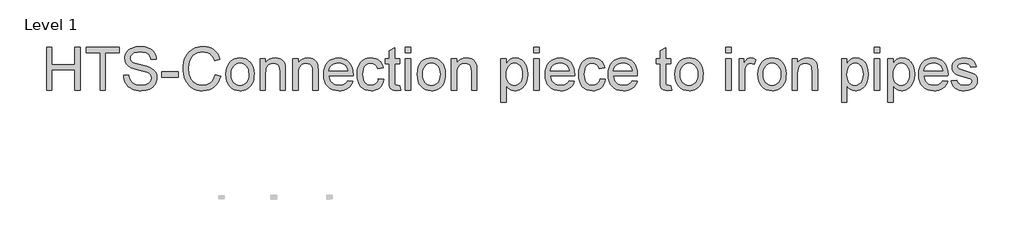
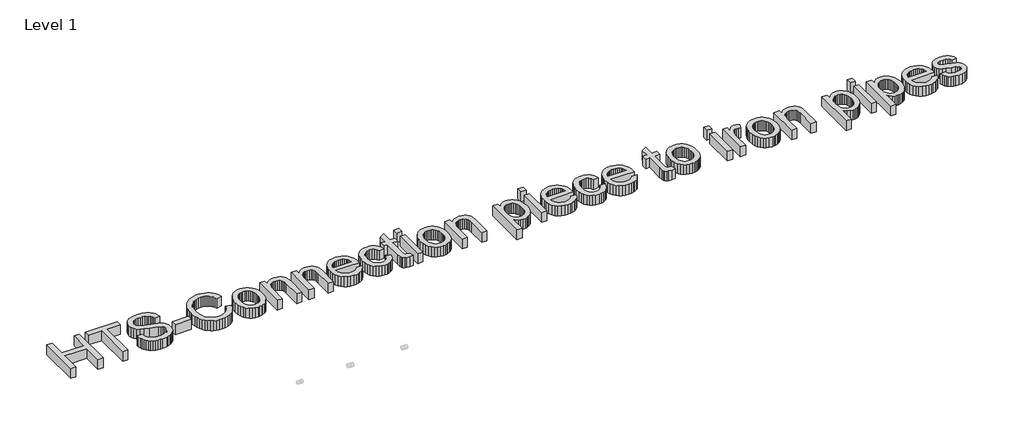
# One storey, part 20 of 29: 1 proxy.
"""IFC4 building model written with IfcOpenShell, lengths in millimetres."""

import ifcopenshell
import ifcopenshell.guid

model = None  # the IFC model being written
_history = None  # IfcOwnerHistory: only IFC2X3 demands one
_inside = {}  # id of a spatial element -> (the spatial element, [elements in it])
_under = {}  # id of a project, library or spatial element -> (it, [spatial elements below it])
_declared = {}  # id of a project -> (the project, [libraries it declares])
_typed = {}  # id of a type object -> (the type object, [elements of that type])
_made_of = {}  # id of a material, layer set ... -> (it, [elements and type objects made of it])


def new_model(schema):
    """Start an empty IFC model of exactly this schema.

    Asked for "IFC4X3", IfcOpenShell would pick the latest addendum, in which some entities
    have other attributes; the version numbers below select the first issue.
    IFC2X3 requires an IfcOwnerHistory on every rooted entity: one is made here for all.
    """
    global model, _history
    if schema == "IFC4X3":
        model = ifcopenshell.file(schema_version=(4, 3, 0, 0))
    else:
        model = ifcopenshell.file(schema=schema)
    _inside.clear()
    _under.clear()
    _declared.clear()
    _typed.clear()
    _made_of.clear()
    _history = None
    if model.schema == "IFC2X3":
        org = make("IfcOrganization", Name="unknown")
        user = make(
            "IfcPersonAndOrganization",
            ThePerson=make("IfcPerson", FamilyName="unknown"),
            TheOrganization=org,
        )
        app = make(
            "IfcApplication",
            ApplicationDeveloper=org,
            Version="unknown",
            ApplicationFullName="unknown",
            ApplicationIdentifier="unknown",
        )
        _history = make(
            "IfcOwnerHistory",
            OwningUser=user,
            OwningApplication=app,
            ChangeAction="ADDED",
            CreationDate=0,
        )
    return model


def make(cls, **values):
    """One entity of the class cls with the attributes given. An attribute that is None is left unset."""
    return model.create_entity(
        cls, **{name: value for name, value in values.items() if value is not None}
    )


def rooted(cls, **values):
    """An entity with a GlobalId (a new one), such as an element, a storey or a relation."""
    return make(cls, GlobalId=ifcopenshell.guid.new(), OwnerHistory=_history, **values)


def si_unit(unit_type, name, prefix=None):
    """IfcSIUnit, for example si_unit("LENGTHUNIT", "METRE", prefix="MILLI")."""
    return make("IfcSIUnit", UnitType=unit_type, Prefix=prefix, Name=name)


def assignment(units):
    """IfcUnitAssignment: the units of a project."""
    return None if units is None else make("IfcUnitAssignment", Units=units)


def point(xyz):
    """IfcCartesianPoint."""
    return None if xyz is None else make("IfcCartesianPoint", Coordinates=xyz)


def direction(xyz):
    """IfcDirection."""
    return None if xyz is None else make("IfcDirection", DirectionRatios=xyz)


def frame(location, z_axis=None, x_axis=None):
    """IfcAxis2Placement3D, a coordinate frame: its origin and axes. An axis left out is left unset."""
    return make(
        "IfcAxis2Placement3D",
        Location=point(location),
        Axis=direction(z_axis),
        RefDirection=direction(x_axis),
    )


def origin():
    """The frame at (0, 0, 0) with its axes left unset."""
    return frame((0.0, 0.0, 0.0))


def origin_with_axes():
    """The frame at (0, 0, 0) with the z axis (0, 0, 1) and the x axis (1, 0, 0) written out."""
    return frame((0.0, 0.0, 0.0), z_axis=(0.0, 0.0, 1.0), x_axis=(1.0, 0.0, 0.0))


def place(relative_to, where):
    """IfcLocalPlacement: puts the frame where relative to a parent placement (None: the world)."""
    return make(
        "IfcLocalPlacement", PlacementRelTo=relative_to, RelativePlacement=where
    )


def context(
    kind, dimensions, precision=None, world=None, true_north=None, identifier=None
):
    """IfcGeometricRepresentationContext, for example the 3D "Model" context."""
    return make(
        "IfcGeometricRepresentationContext",
        ContextIdentifier=identifier,
        ContextType=kind,
        CoordinateSpaceDimension=dimensions,
        Precision=precision,
        WorldCoordinateSystem=world,
        TrueNorth=true_north,
    )


def project(units=None, contexts=None):
    """IfcProject with its units and contexts."""
    return rooted(
        "IfcProject",
        Name="project",
        RepresentationContexts=contexts,
        UnitsInContext=assignment(units),
    )


def spatial(cls, under=None, at=None, **own):
    """A site, building, storey or space (cls), placed at a placement, below another one or the project."""
    s = rooted(cls, ObjectPlacement=at, **own)
    if under is not None:
        _under.setdefault(under.id(), (under, []))[1].append(s)
    return s


def polyline(points):
    """IfcPolyline through the points."""
    return make("IfcPolyline", Points=[point(p) for p in points])


def outline(outer, holes=None, kind="AREA"):
    """IfcArbitraryClosedProfileDef: a profile drawn as a closed curve; with holes, ...WithVoids."""
    if holes is None:
        return make("IfcArbitraryClosedProfileDef", ProfileType=kind, OuterCurve=outer)
    return make(
        "IfcArbitraryProfileDefWithVoids",
        ProfileType=kind,
        OuterCurve=outer,
        InnerCurves=holes,
    )


def extrude(swept, where, along, depth):
    """IfcExtrudedAreaSolid: the profile swept, set in the frame where, extruded along a direction by depth."""
    return make(
        "IfcExtrudedAreaSolid",
        SweptArea=swept,
        Position=where,
        ExtrudedDirection=direction(along),
        Depth=depth,
    )


def shape(context_of_items, identifier, shape_type, items):
    """IfcShapeRepresentation: the items that make up one representation, for example the "Body"."""
    return make(
        "IfcShapeRepresentation",
        ContextOfItems=context_of_items,
        RepresentationIdentifier=identifier,
        RepresentationType=shape_type,
        Items=items,
    )


def made_of(thing, what):
    """Note that an element or type object is made of a material, layer set ...; save() writes the relation."""
    if what is not None:
        _made_of.setdefault(what.id(), (what, []))[1].append(thing)
    return thing


def element(
    cls,
    number,
    at=None,
    inside=None,
    cuts=None,
    type_object=None,
    material=None,
    context=None,
    identifier="Body",
    shape_type=None,
    held_by="IfcProductDefinitionShape",
    body=None,
    shapes=None,
    **own,
):
    """One element of the class cls, such as IfcWall. Its Tag is "e" and its number.

    at: its placement. inside: the storey or other place that contains it. cuts: it is an
    opening in that element (IfcRelVoidsElement). A single representation is given by context,
    identifier, shape_type and body (its items); several are given by shapes. held_by: the class
    of the entity that holds the representations. save() writes the other relations.
    """
    e = rooted(cls, Tag="e%d" % number, ObjectPlacement=at, **own)
    if body is not None:
        shapes = [shape(context, identifier, shape_type, body)]
    if shapes is not None:
        e.Representation = make(held_by, Representations=shapes)
    if inside is not None:
        _inside.setdefault(inside.id(), (inside, []))[1].append(e)
    if cuts is not None:
        rooted(
            "IfcRelVoidsElement", RelatingBuildingElement=cuts, RelatedOpeningElement=e
        )
    if type_object is not None:
        _typed.setdefault(type_object.id(), (type_object, []))[1].append(e)
    return made_of(e, material)


def aggregate(whole, parts):
    """IfcRelAggregates: a whole, such as a stair, and the parts it consists of."""
    return rooted("IfcRelAggregates", RelatingObject=whole, RelatedObjects=parts)


def save(model, path):
    """Write the relations noted so far, then the file.

    IfcRelAggregates (storeys below a building ...), IfcRelContainedInSpatialStructure (elements
    in a storey), IfcRelDefinesByType, IfcRelAssociatesMaterial and IfcRelDeclares: one each for
    every whole, place, type object, material and project.
    """
    for whole, parts in _under.values():
        aggregate(whole, parts)
    for where, things in _inside.values():
        rooted(
            "IfcRelContainedInSpatialStructure",
            RelatedElements=things,
            RelatingStructure=where,
        )
    for kind, things in _typed.values():
        rooted("IfcRelDefinesByType", RelatedObjects=things, RelatingType=kind)
    for what, things in _made_of.values():
        rooted("IfcRelAssociatesMaterial", RelatedObjects=things, RelatingMaterial=what)
    for by, libraries in _declared.values():
        rooted("IfcRelDeclares", RelatingContext=by, RelatedDefinitions=libraries)
    model.write(path)


model = new_model("IFC4")

# Units and contexts
model_context = context("Model", 3, world=origin())
ifc_project = project(units=[si_unit("LENGTHUNIT", "METRE", prefix="MILLI")], contexts=[model_context])

# Site, building, storey
site = spatial("IfcSite", under=ifc_project)
building = spatial("IfcBuilding", under=site)
storey = spatial("IfcBuildingStorey", under=building, Name="Level 1", Elevation=0.0)

# Proxy
placement = place(None, origin())
element("IfcBuildingElementProxy", 1, Name="600mm Arial", ObjectType="600mm Arial", at=placement, inside=storey, context=model_context, shape_type="SweptSolid", body=[
    extrude(outline(polyline([(14350.8202935, 3397.4788316), (14350.8202935, 4000.2166925), (14426.1625261, 4000.2166925), (14426.1625261, 3755.3544365), (14746.3670147, 3755.3544365), (14746.3670147, 4000.2166925), (14821.7092473, 4000.2166925), (14821.7092473, 3397.4788316), (14746.3670147, 3397.4788316), (14746.3670147, 3680.0122039), (14426.1625261, 3680.0122039), (14426.1625261, 3397.4788316), (14350.8202935, 3397.4788316)])), origin_with_axes(), (0.0, 0.0, 1.0), 150.0),
    extrude(outline(polyline([(15104.2426196, 3397.4788316), (15104.2426196, 3924.8744599), (14906.469259, 3924.8744599), (14906.469259, 4000.2166925), (15377.3582128, 4000.2166925), (15377.3582128, 3924.8744599), (15179.5848522, 3924.8744599), (15179.5848522, 3397.4788316), (15104.2426196, 3397.4788316)])), origin_with_axes(), (0.0, 0.0, 1.0), 150.0),
    extrude(outline(polyline([(15433.8648873, 3604.6699713), (15509.2071199, 3604.6699713), (15517.8523468, 3562.8601826), (15533.4873316, 3529.2541623), (15557.8779078, 3502.5827176), (15592.7899092, 3481.5766557), (15635.4642206, 3467.9466278), (15683.1417272, 3463.4032852), (15725.1170629, 3466.8429818), (15761.8684742, 3477.1620718), (15791.6485217, 3493.4960324), (15812.7097659, 3514.9803409), (15825.2361478, 3539.6468287), (15829.4116085, 3565.527327), (15826.2846115, 3590.7456378), (15816.9036206, 3612.542646), (15797.8473333, 3631.1390809), (15765.6944469, 3646.7556716), (15655.992036, 3675.5240436), (15583.9791354, 3694.5619368), (15537.9019155, 3712.6801251), (15500.3963461, 3738.0271946), (15473.8168719, 3768.7453412), (15457.9795521, 3804.1723773), (15452.7004454, 3843.6461154), (15454.3329218, 3866.0823186), (15459.2303508, 3887.7735607), (15467.3927326, 3908.7198418), (15478.8200671, 3928.9211619), (15493.3835956, 3947.5543849), (15510.9545594, 3963.796375), (15531.5329585, 3977.6471321), (15555.1187929, 3989.1066563), (15608.1305884, 4004.5025178), (15666.8077666, 4009.6344716), (15730.3777754, 4004.2633945), (15786.0015331, 3988.1501631), (15810.336927, 3976.148013), (15831.6924769, 3961.6258712), (15850.0681825, 3944.5837378), (15865.464044, 3925.0216127), (15877.7604997, 3903.509713), (15886.8379879, 3880.6182559), (15892.6965087, 3856.3472413), (15895.336062, 3830.6966691), (15819.9938294, 3830.6966691), (15814.9538461, 3854.7377575), (15806.1614664, 3875.651849), (15793.6166904, 3893.4389434), (15777.319518, 3908.0990409), (15756.9664466, 3919.5585651), (15732.2539736, 3927.7439395), (15703.1820989, 3932.6551641), (15669.7508226, 3934.292239), (15635.2526885, 3932.6735582), (15605.7761436, 3927.8175159), (15581.321188, 3919.724112), (15561.8878216, 3908.3933465), (15547.0805713, 3894.7725157), (15536.5039639, 3879.8089155), (15530.1579995, 3863.5025461), (15528.042678, 3845.8534073), (15529.5417972, 3830.669078), (15534.0391546, 3816.9010943), (15541.5347502, 3804.5494563), (15552.0285841, 3793.614164), (15568.5464857, 3783.2582859), (15594.5557428, 3772.7920431), (15675.0483233, 3751.5284638), (15758.1160778, 3731.3317422), (15808.3687584, 3713.7101947), (15851.3189813, 3686.3765624), (15867.9242549, 3670.3093163), (15881.2829698, 3652.6417835), (15891.551476, 3633.4659345), (15898.8861233, 3612.8737398), (15904.7538411, 3567.4403134), (15903.0661824, 3543.8728731), (15898.0032065, 3520.9952115), (15889.5649132, 3498.8073287), (15877.7513027, 3477.3092246), (15862.7693084, 3457.3332322), (15844.8258641, 3439.7116847), (15823.9209697, 3424.4445819), (15800.0546253, 3411.5319238), (15773.921208, 3401.2634177), (15746.2150953, 3393.9287704), (15686.0847832, 3388.0610526), (15647.5445456, 3389.6429451), (15612.2692608, 3394.3886229), (15580.2589287, 3402.2980858), (15551.5135493, 3413.3713338), (15525.8583787, 3427.6267611), (15503.1186729, 3445.0827618), (15483.2944318, 3465.7393358), (15466.3856556, 3489.5964832), (15452.7648248, 3515.8816518), (15442.8044198, 3543.8222893), (15436.5044406, 3573.4183958), (15433.8648873, 3604.6699713)])), origin_with_axes(), (0.0, 0.0, 1.0), 150.0),
    extrude(outline(polyline([(15970.6782946, 3576.4166341), (15970.6782946, 3651.7588667), (16206.1227715, 3651.7588667), (16206.1227715, 3576.4166341), (15970.6782946, 3576.4166341)])), origin_with_axes(), (0.0, 0.0, 1.0), 150.0),
    extrude(outline(polyline([(16724.1006208, 3611.7333056), (16799.4428534, 3592.3091363), (16784.5344355, 3545.4547657), (16764.6780048, 3504.5140981), (16739.8735613, 3469.4871337), (16710.1211049, 3440.3738723), (16676.0920204, 3417.4870136), (16638.4576923, 3401.1392575), (16597.2181206, 3391.3306038), (16552.3733054, 3388.0610526), (16506.4294427, 3390.535059), (16464.9829375, 3397.9570782), (16428.0337896, 3410.3271103), (16395.5819991, 3427.6451552), (16367.181509, 3449.6536956), (16342.3862626, 3476.095214), (16321.1962596, 3506.9697104), (16303.6115003, 3542.2771849), (16289.8021299, 3580.4909272), (16279.9382939, 3620.0842269), (16274.0199923, 3661.0570841), (16272.0472251, 3703.4094988), (16274.2775097, 3748.8521223), (16280.9683635, 3791.2965075), (16292.1197864, 3830.7426544), (16307.7317786, 3867.1905631), (16327.4548521, 3900.0378267), (16350.9395189, 3928.6820386), (16378.1857792, 3953.1231986), (16409.1936329, 3973.3613069), (16442.9100177, 3989.2308164), (16478.2818716, 4000.5661804), (16515.3091944, 4007.3673988), (16553.9919862, 4009.6344716), (16597.0847634, 4006.7006127), (16636.5998882, 3997.899036), (16672.5373606, 3983.2297414), (16704.8971806, 3962.692729), (16733.1459193, 3936.8306248), (16756.7501478, 3906.1860546), (16775.7098662, 3870.7590184), (16790.0250743, 3830.5495163), (16714.6828417, 3812.596875), (16702.8186473, 3842.2251712), (16688.56322, 3867.540051), (16671.9165597, 3888.5415144), (16652.8786665, 3905.2295614), (16631.3391757, 3917.9444828), (16607.1877227, 3927.0265696), (16580.4243075, 3932.4758216), (16551.0489302, 3934.292239), (16517.2497719, 3932.2780851), (16486.3384873, 3926.2356233), (16458.3150763, 3916.1648537), (16433.179539, 3902.0657762), (16411.2491735, 3884.5729873), (16392.8412782, 3864.3210835), (16377.955853, 3841.3100647), (16366.5928978, 3815.5399309), (16352.1903177, 3760.3944199), (16347.3894577, 3703.5566516), (16353.0732345, 3633.9533781), (16360.1779556, 3602.6834085), (16370.124565, 3573.7678837), (16383.0740112, 3547.7816193), (16399.1872426, 3525.2994309), (16418.4642592, 3506.3213184), (16440.9050609, 3490.847282), (16465.4197973, 3478.8405334), (16490.9186181, 3470.2642844), (16517.4015232, 3465.118535), (16544.8685127, 3463.4032852), (16577.6238059, 3465.7393358), (16607.7579398, 3472.7474878), (16635.2709145, 3484.4277412), (16660.16273, 3500.7800959), (16681.8447751, 3521.7309755), (16699.7284386, 3547.2068037), (16713.8137205, 3577.2075804), (16724.1006208, 3611.7333056)])), origin_with_axes(), (0.0, 0.0, 1.0), 150.0),
    extrude(outline(polyline([(16874.785086, 3618.7966399), (16878.8593791, 3676.1218518), (16891.0822584, 3725.5192067), (16911.4537238, 3766.9887046), (16939.9737755, 3800.5303455), (16968.6869652, 3821.9686688), (17000.3799991, 3837.2817569), (17035.0528772, 3846.4696097), (17072.7055994, 3849.5322273), (17114.2716663, 3845.8028236), (17151.8554106, 3834.6146124), (17185.4568324, 3815.9675938), (17215.0759315, 3789.8617677), (17239.2503771, 3757.1800509), (17256.5178383, 3718.8053603), (17266.878315, 3674.7376958), (17270.3318072, 3624.9770574), (17268.8050969, 3584.6479937), (17264.2249661, 3548.8622726), (17256.5914147, 3517.6198942), (17245.9044427, 3490.9208584), (17232.2974074, 3467.8592558), (17215.903666, 3447.5291771), (17196.7232185, 3429.9306221), (17174.7560648, 3415.063591), (17150.8575307, 3403.2499804), (17125.8829418, 3394.8116872), (17099.832298, 3389.7487112), (17072.7055994, 3388.0610526), (17030.5325272, 3391.7766607), (16992.5992949, 3402.9234852), (16958.9059027, 3421.5015259), (16929.4523505, 3447.510783), (16905.5354223, 3480.5097979), (16888.4519021, 3520.0571124), (16878.20179, 3566.1527264), (16874.785086, 3618.7966399)]), holes=[polyline([(16950.1273186, 3618.9437927), (16952.3070194, 3582.399315), (16958.8461219, 3550.7568649), (16969.744626, 3524.0164424), (16985.0025317, 3502.1780475), (17003.5621784, 3485.214089), (17024.3659052, 3473.0969757), (17047.4137122, 3465.8267078), (17072.7055994, 3463.4032852), (17097.8687279, 3465.8405034), (17120.8245644, 3473.152158), (17141.5731089, 3485.3382491), (17160.1143614, 3502.3987767), (17175.3722672, 3524.4533023), (17186.2707713, 3551.6213876), (17192.8098738, 3583.9030327), (17194.9895746, 3621.2982375), (17192.7960782, 3656.6838869), (17186.215589, 3687.4986025), (17175.248107, 3713.7423844), (17159.8936322, 3735.4152324), (17141.2834018, 3752.3791909), (17120.5486529, 3764.4963041), (17097.6893854, 3771.766572), (17072.7055994, 3774.1899947), (17047.4137122, 3771.7757691), (17024.3659052, 3764.5330923), (17003.5621784, 3752.4619643), (16985.0025317, 3735.5623852), (16969.744626, 3713.7883696), (16958.8461219, 3687.0939323), (16952.3070194, 3655.4790734), (16950.1273186, 3618.9437927)])]), origin_with_axes(), (0.0, 0.0, 1.0), 150.0),
    extrude(outline(polyline([(17355.0918189, 3397.4788316), (17355.0918189, 3840.1144482), (17430.4340515, 3840.1144482), (17430.4340515, 3778.310273), (17456.6088555, 3809.469878), (17488.0443719, 3831.7267387), (17524.740601, 3845.0808552), (17566.6975425, 3849.5322273), (17603.8352299, 3845.9453778), (17637.8459204, 3835.1848295), (17666.2096222, 3818.5933515), (17686.4063437, 3797.5137132), (17700.1099481, 3772.0010968), (17708.9942982, 3742.1106847), (17712.9674238, 3669.2700497), (17712.9674238, 3397.4788316), (17637.6251912, 3397.4788316), (17637.6251912, 3659.1165066), (17635.4546874, 3698.0752099), (17628.9431761, 3725.7767241), (17616.931829, 3745.6239578), (17598.2618177, 3761.0198193), (17574.3310939, 3770.8974508), (17546.5376092, 3774.1899947), (17523.6599476, 3772.3413877), (17502.4101639, 3766.7955666), (17482.7882579, 3757.5525315), (17464.7942298, 3744.6122823), (17449.7616518, 3726.5032911), (17439.0240961, 3701.7540298), (17432.5815626, 3670.3644986), (17430.4340515, 3632.3346973), (17430.4340515, 3397.4788316), (17355.0918189, 3397.4788316)])), origin_with_axes(), (0.0, 0.0, 1.0), 150.0),
    extrude(outline(polyline([(17816.5629936, 3397.4788316), (17816.5629936, 3840.1144482), (17891.9052262, 3840.1144482), (17891.9052262, 3778.310273), (17918.0800302, 3809.469878), (17949.5155467, 3831.7267387), (17986.2117757, 3845.0808552), (18028.1687173, 3849.5322273), (18065.3064047, 3845.9453778), (18099.3170951, 3835.1848295), (18127.680797, 3818.5933515), (18147.8775185, 3797.5137132), (18161.5811228, 3772.0010968), (18170.465473, 3742.1106847), (18174.4385985, 3669.2700497), (18174.4385985, 3397.4788316), (18099.0963659, 3397.4788316), (18099.0963659, 3659.1165066), (18096.9258622, 3698.0752099), (18090.4143508, 3725.7767241), (18078.4030037, 3745.6239578), (18059.7329924, 3761.0198193), (18035.8022687, 3770.8974508), (18008.0087839, 3774.1899947), (17985.1311223, 3772.3413877), (17963.8813386, 3766.7955666), (17944.2594327, 3757.5525315), (17926.2654046, 3744.6122823), (17911.2328266, 3726.5032911), (17900.4952708, 3701.7540298), (17894.0527374, 3670.3644986), (17891.9052262, 3632.3346973), (17891.9052262, 3397.4788316), (17816.5629936, 3397.4788316)])), origin_with_axes(), (0.0, 0.0, 1.0), 150.0),
    extrude(outline(polyline([(18587.9379611, 3529.3277387), (18661.8086658, 3519.9099596), (18650.4824988, 3490.3230502), (18635.1924034, 3464.2494138), (18615.9383795, 3441.6890504), (18592.7204271, 3422.6419601), (18565.7776694, 3407.512813), (18535.3492299, 3396.7062794), (18501.4351085, 3390.2223593), (18464.0353051, 3388.0610526), (18417.2867006, 3391.7904563), (18375.6332617, 3402.9786675), (18339.0749884, 3421.6256861), (18307.6118808, 3447.7315122), (18282.3107966, 3480.5695788), (18264.2385936, 3519.4133189), (18253.3952718, 3564.2627327), (18249.7808312, 3615.11782), (18253.43206, 3667.6973541), (18264.3857464, 3714.0412885), (18282.6418904, 3754.149623), (18308.200492, 3788.0223577), (18339.5808262, 3814.9329257), (18375.3021679, 3834.1547599), (18415.3645172, 3845.6878605), (18459.767874, 3849.5322273), (18502.7410896, 3845.6970575), (18541.6032238, 3834.1915481), (18576.3542768, 3815.0156991), (18606.9942485, 3788.1695105), (18632.0056256, 3754.3703522), (18649.870895, 3714.3355941), (18660.5900566, 3668.0652361), (18664.1631105, 3615.5592784), (18663.7216521, 3595.2521922), (18325.1230638, 3595.2521922), (18329.4870639, 3565.1870362), (18338.1644805, 3538.8558824), (18351.1553134, 3516.2587308), (18368.4595628, 3497.3955815), (18389.1207354, 3482.5239519), (18412.1823379, 3471.9013593), (18437.6443705, 3465.5278037), (18465.5068331, 3463.4032852), (18505.6059706, 3467.3396225), (18539.3775378, 3479.1486346), (18566.8215346, 3499.5660853), (18587.9379611, 3529.3277387)]), holes=[polyline([(18325.1230638, 3670.5944248), (18588.8208779, 3670.5944248), (18578.6305466, 3710.3992567), (18569.8657581, 3726.0526356), (18558.6545543, 3738.8733232), (18538.1083449, 3754.3243669), (18514.7294441, 3765.3608268), (18488.5178519, 3771.9827027), (18459.4735684, 3774.1899947), (18432.9814662, 3772.4287596), (18408.687459, 3767.1450545), (18386.5915466, 3758.3388792), (18366.6937292, 3746.0102339), (18349.9964852, 3730.7293355), (18337.5022929, 3713.0664012), (18329.2111524, 3693.021431), (18325.1230638, 3670.5944248)])]), origin_with_axes(), (0.0, 0.0, 1.0), 150.0),
    extrude(outline(polyline([(19022.0387154, 3557.5810759), (19097.380948, 3548.1632969), (19089.1863766, 3512.6121005), (19076.3748861, 3481.1535914), (19058.9464766, 3453.7877695), (19036.901148, 3430.5146348), (19011.1678025, 3411.9411926), (18982.6753419, 3398.6744481), (18951.4237665, 3390.7144014), (18917.413076, 3388.0610526), (18875.1572303, 3391.7628651), (18837.2699834, 3402.8683029), (18803.7513351, 3421.3773657), (18774.6012855, 3447.2900538), (18751.006254, 3480.1189233), (18734.1526601, 3519.3765307), (18724.0405038, 3565.062876), (18720.669785, 3617.1779591), (18726.4271382, 3684.2244528), (18733.6238297, 3714.3953749), (18743.6991979, 3742.3314139), (18756.7222205, 3767.4715498), (18772.7618755, 3789.2547624), (18791.8181628, 3807.6810518), (18813.8910826, 3822.7504181), (18837.9827547, 3834.4674596), (18863.0952994, 3842.836775), (18889.2287166, 3847.8583642), (18916.3830064, 3849.5322273), (18949.8096842, 3847.2329648), (18980.0449857, 3840.3351774), (19007.0889108, 3828.8388651), (19030.9414597, 3812.7440278), (19051.1979621, 3792.4185475), (19067.4537477, 3768.2303064), (19079.7088167, 3740.1793042), (19087.963169, 3708.2655412), (19012.6209364, 3698.8477621), (18998.9541202, 3731.7180183), (18977.6721468, 3755.2808601), (18949.9522385, 3769.462711), (18916.9716176, 3774.1899947), (18891.3716293, 3771.8631411), (18868.2824355, 3764.8825802), (18847.7040364, 3753.2483121), (18829.636432, 3736.9603368), (18814.9257507, 3715.6415752), (18804.4181212, 3688.9149482), (18798.1135435, 3656.7804559), (18796.0120176, 3619.2380983), (18798.0675582, 3581.1301221), (18804.2341802, 3548.6231493), (18814.5118834, 3521.7171799), (18828.900668, 3500.4122139), (18846.6095875, 3484.2208076), (18866.8476958, 3472.6555173), (18889.6149927, 3465.7163432), (18914.9114784, 3463.4032852), (18953.925364, 3469.1790325), (18970.797352, 3476.3987166), (18985.9127035, 3486.5062745), (18998.8483542, 3499.6120705), (19009.1812397, 3515.8264695), (19016.9113601, 3535.1494713), (19022.0387154, 3557.5810759)])), origin_with_axes(), (0.0, 0.0, 1.0), 150.0),
    extrude(outline(polyline([(19323.4076459, 3460.3130764), (19332.825425, 3395.2715397), (19276.4659033, 3388.0610526), (19240.3031032, 3391.1880495), (19213.3373529, 3400.5690404), (19194.2810656, 3415.0268028), (19181.8466541, 3433.3841144), (19175.004049, 3464.9116013), (19172.7231807, 3518.87989), (19172.7231807, 3764.7722156), (19116.2165062, 3764.7722156), (19116.2165062, 3840.1144482), (19172.7231807, 3840.1144482), (19172.7231807, 3947.6831436), (19248.0654133, 3991.9761358), (19248.0654133, 3840.1144482), (19323.4076459, 3840.1144482), (19323.4076459, 3764.7722156), (19248.0654133, 3764.7722156), (19248.0654133, 3521.087182), (19252.0385388, 3482.2388433), (19264.9144086, 3468.4800567), (19275.7853216, 3464.672478), (19290.5925719, 3463.4032852), (19323.4076459, 3460.3130764)])), origin_with_axes(), (0.0, 0.0, 1.0), 150.0),
    extrude(outline(polyline([(19398.7498785, 3924.8744599), (19398.7498785, 4000.2166925), (19474.0921111, 4000.2166925), (19474.0921111, 3924.8744599), (19398.7498785, 3924.8744599)])), origin_with_axes(), (0.0, 0.0, 1.0), 150.0),
    extrude(outline(polyline([(19398.7498785, 3397.4788316), (19398.7498785, 3840.1144482), (19474.0921111, 3840.1144482), (19474.0921111, 3397.4788316), (19398.7498785, 3397.4788316)])), origin_with_axes(), (0.0, 0.0, 1.0), 150.0),
    extrude(outline(polyline([(19568.2699019, 3618.7966399), (19572.344195, 3676.1218518), (19584.5670743, 3725.5192067), (19604.9385397, 3766.9887046), (19633.4585914, 3800.5303455), (19662.1717811, 3821.9686688), (19693.864815, 3837.2817569), (19728.5376931, 3846.4696097), (19766.1904153, 3849.5322273), (19807.7564822, 3845.8028236), (19845.3402265, 3834.6146124), (19878.9416483, 3815.9675938), (19908.5607474, 3789.8617677), (19932.735193, 3757.1800509), (19950.0026542, 3718.8053603), (19960.3631309, 3674.7376958), (19963.8166231, 3624.9770574), (19962.2899128, 3584.6479937), (19957.709782, 3548.8622726), (19950.0762306, 3517.6198942), (19939.3892586, 3490.9208584), (19925.7822233, 3467.8592558), (19909.3884819, 3447.5291771), (19890.2080344, 3429.9306221), (19868.2408807, 3415.063591), (19844.3423466, 3403.2499804), (19819.3677577, 3394.8116872), (19793.3171139, 3389.7487112), (19766.1904153, 3388.0610526), (19724.017343, 3391.7766607), (19686.0841108, 3402.9234852), (19652.3907186, 3421.5015259), (19622.9371663, 3447.510783), (19599.0202381, 3480.5097979), (19581.936718, 3520.0571124), (19571.6866059, 3566.1527264), (19568.2699019, 3618.7966399)]), holes=[polyline([(19643.6121345, 3618.9437927), (19645.7918353, 3582.399315), (19652.3309378, 3550.7568649), (19663.2294419, 3524.0164424), (19678.4873476, 3502.1780475), (19697.0469943, 3485.214089), (19717.8507211, 3473.0969757), (19740.8985281, 3465.8267078), (19766.1904153, 3463.4032852), (19791.3535437, 3465.8405034), (19814.3093802, 3473.152158), (19835.0579248, 3485.3382491), (19853.5991773, 3502.3987767), (19868.8570831, 3524.4533023), (19879.7555872, 3551.6213876), (19886.2946896, 3583.9030327), (19888.4743905, 3621.2982375), (19886.2808941, 3656.6838869), (19879.7004049, 3687.4986025), (19868.7329229, 3713.7423844), (19853.3784481, 3735.4152324), (19834.7682177, 3752.3791909), (19814.0334687, 3764.4963041), (19791.1742013, 3771.766572), (19766.1904153, 3774.1899947), (19740.8985281, 3771.7757691), (19717.8507211, 3764.5330923), (19697.0469943, 3752.4619643), (19678.4873476, 3735.5623852), (19663.2294419, 3713.7883696), (19652.3309378, 3687.0939323), (19645.7918353, 3655.4790734), (19643.6121345, 3618.9437927)])]), origin_with_axes(), (0.0, 0.0, 1.0), 150.0),
    extrude(outline(polyline([(20048.5766348, 3397.4788316), (20048.5766348, 3840.1144482), (20123.9188674, 3840.1144482), (20123.9188674, 3778.310273), (20150.0936713, 3809.469878), (20181.5291878, 3831.7267387), (20218.2254168, 3845.0808552), (20260.1823584, 3849.5322273), (20297.3200458, 3845.9453778), (20331.3307363, 3835.1848295), (20359.6944381, 3818.5933515), (20379.8911596, 3797.5137132), (20393.5947639, 3772.0010968), (20402.4791141, 3742.1106847), (20406.4522397, 3669.2700497), (20406.4522397, 3397.4788316), (20331.1100071, 3397.4788316), (20331.1100071, 3659.1165066), (20328.9395033, 3698.0752099), (20322.427992, 3725.7767241), (20310.4166448, 3745.6239578), (20291.7466336, 3761.0198193), (20267.8159098, 3770.8974508), (20240.0224251, 3774.1899947), (20217.1447635, 3772.3413877), (20195.8949797, 3766.7955666), (20176.2730738, 3757.5525315), (20158.2790457, 3744.6122823), (20143.2464677, 3726.5032911), (20132.508912, 3701.7540298), (20126.0663785, 3670.3644986), (20123.9188674, 3632.3346973), (20123.9188674, 3397.4788316), (20048.5766348, 3397.4788316)])), origin_with_axes(), (0.0, 0.0, 1.0), 150.0),
    extrude(outline(polyline([(20745.4922864, 3227.9588082), (20745.4922864, 3840.1144482), (20820.834519, 3840.1144482), (20820.834519, 3766.2437436), (20845.4090363, 3802.6824552), (20872.9266096, 3828.7101064), (20905.0059195, 3844.3266971), (20943.265647, 3849.5322273), (20969.5416185, 3847.7112114), (20994.2173034, 3842.2481638), (21017.2927015, 3833.1430844), (21038.767813, 3820.3959733), (21058.1735882, 3804.3379242), (21075.0409777, 3785.3000309), (21089.3699814, 3763.2822935), (21101.1605994, 3738.284712), (21116.942737, 3682.7713189), (21122.2034495, 3622.1811543), (21116.2621553, 3557.7466228), (21108.8355375, 3528.0815384), (21098.4382726, 3500.1179083), (21085.2129149, 3474.5868978), (21069.3020186, 3452.2196725), (21050.7055837, 3433.0162324), (21029.4236103, 3416.9765774), (21006.4999635, 3404.3260353), (20982.9785084, 3395.2899338), (20958.8592451, 3389.8682729), (20934.1421736, 3388.0610526), (20899.5060837, 3392.8987008), (20868.585602, 3407.4116455), (20842.1164925, 3429.3190183), (20820.834519, 3456.3399509), (20820.834519, 3227.9588082), (20745.4922864, 3227.9588082)]), holes=[polyline([(20820.834519, 3615.2649728), (20822.8716656, 3578.9550198), (20828.9831052, 3547.7218385), (20839.168838, 3521.5654286), (20853.4288638, 3500.4857903), (20870.5951574, 3484.2621943), (20889.4996934, 3472.6739114), (20910.1424719, 3465.7209417), (20932.5234928, 3463.4032852), (20955.2264104, 3465.8037152), (20976.2462679, 3473.0050052), (20995.5830653, 3485.0071553), (21013.2368025, 3501.8101655), (21027.9474838, 3523.6531589), (21038.4551133, 3550.775259), (21044.759691, 3583.1764657), (21046.8612169, 3620.8567791), (21044.8102748, 3656.8540323), (21038.6574484, 3688.0320314), (21028.4027378, 3714.3907764), (21014.0461429, 3735.9302672), (20996.8384626, 3752.668898), (20978.0304956, 3764.6250628), (20957.6222419, 3771.7987617), (20935.6137015, 3774.1899947), (20913.6741391, 3771.6470104), (20893.0313606, 3764.0180575), (20873.6853662, 3751.3031361), (20855.6361558, 3733.502246), (20840.4104397, 3710.8545107), (20829.5349282, 3683.5990534), (20823.0096213, 3651.7358741), (20820.834519, 3615.2649728)])]), origin_with_axes(), (0.0, 0.0, 1.0), 150.0),
    extrude(outline(polyline([(21206.9634612, 3924.8744599), (21206.9634612, 4000.2166925), (21282.3056938, 4000.2166925), (21282.3056938, 3924.8744599), (21206.9634612, 3924.8744599)])), origin_with_axes(), (0.0, 0.0, 1.0), 150.0),
    extrude(outline(polyline([(21206.9634612, 3397.4788316), (21206.9634612, 3840.1144482), (21282.3056938, 3840.1144482), (21282.3056938, 3397.4788316), (21206.9634612, 3397.4788316)])), origin_with_axes(), (0.0, 0.0, 1.0), 150.0),
    extrude(outline(polyline([(21705.2228354, 3529.3277387), (21779.0935401, 3519.9099596), (21767.7673732, 3490.3230502), (21752.4772777, 3464.2494138), (21733.2232538, 3441.6890504), (21710.0053014, 3422.6419601), (21683.0625438, 3407.512813), (21652.6341042, 3396.7062794), (21618.7199828, 3390.2223593), (21581.3201795, 3388.0610526), (21534.5715749, 3391.7904563), (21492.918136, 3402.9786675), (21456.3598628, 3421.6256861), (21424.8967551, 3447.7315122), (21399.5956709, 3480.5695788), (21381.5234679, 3519.4133189), (21370.6801461, 3564.2627327), (21367.0657055, 3615.11782), (21370.7169343, 3667.6973541), (21381.6706207, 3714.0412885), (21399.9267647, 3754.149623), (21425.4853663, 3788.0223577), (21456.8657005, 3814.9329257), (21492.5870422, 3834.1547599), (21532.6493915, 3845.6878605), (21577.0527483, 3849.5322273), (21620.0259639, 3845.6970575), (21658.8880982, 3834.1915481), (21693.6391511, 3815.0156991), (21724.2791228, 3788.1695105), (21749.2904999, 3754.3703522), (21767.1557693, 3714.3355941), (21777.874931, 3668.0652361), (21781.4479849, 3615.5592784), (21781.0065265, 3595.2521922), (21442.4079381, 3595.2521922), (21446.7719383, 3565.1870362), (21455.4493548, 3538.8558824), (21468.4401878, 3516.2587308), (21485.7444371, 3497.3955815), (21506.4056097, 3482.5239519), (21529.4672123, 3471.9013593), (21554.9292448, 3465.5278037), (21582.7917075, 3463.4032852), (21622.8908449, 3467.3396225), (21656.6624121, 3479.1486346), (21684.1064089, 3499.5660853), (21705.2228354, 3529.3277387)]), holes=[polyline([(21442.4079381, 3670.5944248), (21706.1057522, 3670.5944248), (21695.915421, 3710.3992567), (21687.1506324, 3726.0526356), (21675.9394286, 3738.8733232), (21655.3932192, 3754.3243669), (21632.0143184, 3765.3608268), (21605.8027263, 3771.9827027), (21576.7584427, 3774.1899947), (21550.2663406, 3772.4287596), (21525.9723333, 3767.1450545), (21503.876421, 3758.3388792), (21483.9786036, 3746.0102339), (21467.2813595, 3730.7293355), (21454.7871672, 3713.0664012), (21446.4960268, 3693.021431), (21442.4079381, 3670.5944248)])]), origin_with_axes(), (0.0, 0.0, 1.0), 150.0),
    extrude(outline(polyline([(22139.3235898, 3557.5810759), (22214.6658224, 3548.1632969), (22206.4712509, 3512.6121005), (22193.6597604, 3481.1535914), (22176.2313509, 3453.7877695), (22154.1860224, 3430.5146348), (22128.4526768, 3411.9411926), (22099.9602163, 3398.6744481), (22068.7086408, 3390.7144014), (22034.6979503, 3388.0610526), (21992.4421047, 3391.7628651), (21954.5548577, 3402.8683029), (21921.0362094, 3421.3773657), (21891.8861598, 3447.2900538), (21868.2911283, 3480.1189233), (21851.4375344, 3519.3765307), (21841.3253781, 3565.062876), (21837.9546593, 3617.1779591), (21843.7120125, 3684.2244528), (21850.9087041, 3714.3953749), (21860.9840722, 3742.3314139), (21874.0070948, 3767.4715498), (21890.0467498, 3789.2547624), (21909.1030372, 3807.6810518), (21931.1759569, 3822.7504181), (21955.267629, 3834.4674596), (21980.3801737, 3842.836775), (22006.513591, 3847.8583642), (22033.6678807, 3849.5322273), (22067.0945585, 3847.2329648), (22097.32986, 3840.3351774), (22124.3737852, 3828.8388651), (22148.226334, 3812.7440278), (22168.4828364, 3792.4185475), (22184.7386221, 3768.2303064), (22196.993691, 3740.1793042), (22205.2480433, 3708.2655412), (22129.9058107, 3698.8477621), (22116.2389946, 3731.7180183), (22094.9570211, 3755.2808601), (22067.2371128, 3769.462711), (22034.2564919, 3774.1899947), (22008.6565036, 3771.8631411), (21985.5673099, 3764.8825802), (21964.9889108, 3753.2483121), (21946.9213063, 3736.9603368), (21932.210625, 3715.6415752), (21921.7029955, 3688.9149482), (21915.3984178, 3656.7804559), (21913.2968919, 3619.2380983), (21915.3524326, 3581.1301221), (21921.5190545, 3548.6231493), (21931.7967578, 3521.7171799), (21946.1855423, 3500.4122139), (21963.8944618, 3484.2208076), (21984.1325701, 3472.6555173), (22006.8998671, 3465.7163432), (22032.1963528, 3463.4032852), (22071.2102384, 3469.1790325), (22088.0822264, 3476.3987166), (22103.1975778, 3486.5062745), (22116.1332285, 3499.6120705), (22126.466114, 3515.8264695), (22134.1962345, 3535.1494713), (22139.3235898, 3557.5810759)])), origin_with_axes(), (0.0, 0.0, 1.0), 150.0),
    extrude(outline(polyline([(22590.4940686, 3529.3277387), (22664.3647733, 3519.9099596), (22653.0386063, 3490.3230502), (22637.7485109, 3464.2494138), (22618.494487, 3441.6890504), (22595.2765346, 3422.6419601), (22568.333777, 3407.512813), (22537.9053374, 3396.7062794), (22503.991216, 3390.2223593), (22466.5914127, 3388.0610526), (22419.8428081, 3391.7904563), (22378.1893692, 3402.9786675), (22341.631096, 3421.6256861), (22310.1679883, 3447.7315122), (22284.8669041, 3480.5695788), (22266.7947011, 3519.4133189), (22255.9513793, 3564.2627327), (22252.3369387, 3615.11782), (22255.9881675, 3667.6973541), (22266.9418539, 3714.0412885), (22285.1979979, 3754.149623), (22310.7565995, 3788.0223577), (22342.1369337, 3814.9329257), (22377.8582754, 3834.1547599), (22417.9206247, 3845.6878605), (22462.3239815, 3849.5322273), (22505.2971971, 3845.6970575), (22544.1593314, 3834.1915481), (22578.9103843, 3815.0156991), (22609.550356, 3788.1695105), (22634.5617331, 3754.3703522), (22652.4270025, 3714.3355941), (22663.1461642, 3668.0652361), (22666.719218, 3615.5592784), (22666.2777596, 3595.2521922), (22327.6791713, 3595.2521922), (22332.0431715, 3565.1870362), (22340.720588, 3538.8558824), (22353.711421, 3516.2587308), (22371.0156703, 3497.3955815), (22391.6768429, 3482.5239519), (22414.7384454, 3471.9013593), (22440.200478, 3465.5278037), (22468.0629406, 3463.4032852), (22508.1620781, 3467.3396225), (22541.9336453, 3479.1486346), (22569.3776421, 3499.5660853), (22590.4940686, 3529.3277387)]), holes=[polyline([(22327.6791713, 3670.5944248), (22591.3769854, 3670.5944248), (22581.1866542, 3710.3992567), (22572.4218656, 3726.0526356), (22561.2106618, 3738.8733232), (22540.6644524, 3754.3243669), (22517.2855516, 3765.3608268), (22491.0739594, 3771.9827027), (22462.0296759, 3774.1899947), (22435.5375737, 3772.4287596), (22411.2435665, 3767.1450545), (22389.1476542, 3758.3388792), (22369.2498367, 3746.0102339), (22352.5525927, 3730.7293355), (22340.0584004, 3713.0664012), (22331.76726, 3693.021431), (22327.6791713, 3670.5944248)])]), origin_with_axes(), (0.0, 0.0, 1.0), 150.0),
    extrude(outline(polyline([(23137.6081719, 3460.3130764), (23147.0259509, 3395.2715397), (23090.6664293, 3388.0610526), (23054.5036292, 3391.1880495), (23027.5378789, 3400.5690404), (23008.4815916, 3415.0268028), (22996.0471801, 3433.3841144), (22989.204575, 3464.9116013), (22986.9237066, 3518.87989), (22986.9237066, 3764.7722156), (22930.4170322, 3764.7722156), (22930.4170322, 3840.1144482), (22986.9237066, 3840.1144482), (22986.9237066, 3947.6831436), (23062.2659393, 3991.9761358), (23062.2659393, 3840.1144482), (23137.6081719, 3840.1144482), (23137.6081719, 3764.7722156), (23062.2659393, 3764.7722156), (23062.2659393, 3521.087182), (23066.2390648, 3482.2388433), (23079.1149346, 3468.4800567), (23089.9858476, 3464.672478), (23104.7930979, 3463.4032852), (23137.6081719, 3460.3130764)])), origin_with_axes(), (0.0, 0.0, 1.0), 150.0),
    extrude(outline(polyline([(23194.1148463, 3618.7966399), (23198.1891394, 3676.1218518), (23210.4120187, 3725.5192067), (23230.7834842, 3766.9887046), (23259.3035359, 3800.5303455), (23288.0167256, 3821.9686688), (23319.7097595, 3837.2817569), (23354.3826375, 3846.4696097), (23392.0353597, 3849.5322273), (23433.6014267, 3845.8028236), (23471.185171, 3834.6146124), (23504.7865927, 3815.9675938), (23534.4056919, 3789.8617677), (23558.5801375, 3757.1800509), (23575.8475986, 3718.8053603), (23586.2080753, 3674.7376958), (23589.6615675, 3624.9770574), (23588.1348573, 3584.6479937), (23583.5547264, 3548.8622726), (23575.921175, 3517.6198942), (23565.2342031, 3490.9208584), (23551.6271678, 3467.8592558), (23535.2334264, 3447.5291771), (23516.0529788, 3429.9306221), (23494.0858252, 3415.063591), (23470.1872911, 3403.2499804), (23445.2127021, 3394.8116872), (23419.1620584, 3389.7487112), (23392.0353597, 3388.0610526), (23349.8622875, 3391.7766607), (23311.9290553, 3402.9234852), (23278.2356631, 3421.5015259), (23248.7821108, 3447.510783), (23224.8651826, 3480.5097979), (23207.7816624, 3520.0571124), (23197.5315504, 3566.1527264), (23194.1148463, 3618.7966399)]), holes=[polyline([(23269.4570789, 3618.9437927), (23271.6367798, 3582.399315), (23278.1758822, 3550.7568649), (23289.0743863, 3524.0164424), (23304.3322921, 3502.1780475), (23322.8919387, 3485.214089), (23343.6956656, 3473.0969757), (23366.7434726, 3465.8267078), (23392.0353597, 3463.4032852), (23417.1984882, 3465.8405034), (23440.1543247, 3473.152158), (23460.9028692, 3485.3382491), (23479.4441218, 3502.3987767), (23494.7020275, 3524.4533023), (23505.6005316, 3551.6213876), (23512.1396341, 3583.9030327), (23514.3193349, 3621.2982375), (23512.1258385, 3656.6838869), (23505.5453493, 3687.4986025), (23494.5778674, 3713.7423844), (23479.2233926, 3735.4152324), (23460.6131622, 3752.3791909), (23439.8784132, 3764.4963041), (23417.0191457, 3771.766572), (23392.0353597, 3774.1899947), (23366.7434726, 3771.7757691), (23343.6956656, 3764.5330923), (23322.8919387, 3752.4619643), (23304.3322921, 3735.5623852), (23289.0743863, 3713.7883696), (23278.1758822, 3687.0939323), (23271.6367798, 3655.4790734), (23269.4570789, 3618.9437927)])]), origin_with_axes(), (0.0, 0.0, 1.0), 150.0),
    extrude(outline(polyline([(23909.8660561, 3924.8744599), (23909.8660561, 4000.2166925), (23985.2082888, 4000.2166925), (23985.2082888, 3924.8744599), (23909.8660561, 3924.8744599)])), origin_with_axes(), (0.0, 0.0, 1.0), 150.0),
    extrude(outline(polyline([(23909.8660561, 3397.4788316), (23909.8660561, 3840.1144482), (23985.2082888, 3840.1144482), (23985.2082888, 3397.4788316), (23909.8660561, 3397.4788316)])), origin_with_axes(), (0.0, 0.0, 1.0), 150.0),
    extrude(outline(polyline([(24098.2216377, 3397.4788316), (24098.2216377, 3840.1144482), (24164.1460912, 3840.1144482), (24164.1460912, 3774.6314531), (24188.4998793, 3812.596875), (24210.940681, 3834.9641003), (24233.4550591, 3845.8901955), (24258.0295764, 3849.5322273), (24295.5535399, 3843.7196918), (24333.6661146, 3826.2820852), (24308.5029861, 3758.7389509), (24282.0154825, 3770.3272337), (24255.5279788, 3774.1899947), (24233.0319948, 3770.4743865), (24212.9272438, 3759.3275621), (24196.6852537, 3741.5956499), (24185.7775525, 3718.1247786), (24176.6172908, 3676.0390784), (24173.5638703, 3630.1274054), (24173.5638703, 3397.4788316), (24098.2216377, 3397.4788316)])), origin_with_axes(), (0.0, 0.0, 1.0), 150.0),
    extrude(outline(polyline([(24361.9194518, 3618.7966399), (24365.9937449, 3676.1218518), (24378.2166242, 3725.5192067), (24398.5880897, 3766.9887046), (24427.1081414, 3800.5303455), (24455.8213311, 3821.9686688), (24487.514365, 3837.2817569), (24522.187243, 3846.4696097), (24559.8399652, 3849.5322273), (24601.4060322, 3845.8028236), (24638.9897765, 3834.6146124), (24672.5911982, 3815.9675938), (24702.2102974, 3789.8617677), (24726.384743, 3757.1800509), (24743.6522041, 3718.8053603), (24754.0126808, 3674.7376958), (24757.466173, 3624.9770574), (24755.9394628, 3584.6479937), (24751.3593319, 3548.8622726), (24743.7257805, 3517.6198942), (24733.0388086, 3490.9208584), (24719.4317733, 3467.8592558), (24703.0380318, 3447.5291771), (24683.8575843, 3429.9306221), (24661.8904307, 3415.063591), (24637.9918966, 3403.2499804), (24613.0173076, 3394.8116872), (24586.9666638, 3389.7487112), (24559.8399652, 3388.0610526), (24517.666893, 3391.7766607), (24479.7336608, 3402.9234852), (24446.0402685, 3421.5015259), (24416.5867163, 3447.510783), (24392.6697881, 3480.5097979), (24375.5862679, 3520.0571124), (24365.3361558, 3566.1527264), (24361.9194518, 3618.7966399)]), holes=[polyline([(24437.2616844, 3618.9437927), (24439.4413853, 3582.399315), (24445.9804877, 3550.7568649), (24456.8789918, 3524.0164424), (24472.1368976, 3502.1780475), (24490.6965442, 3485.214089), (24511.5002711, 3473.0969757), (24534.5480781, 3465.8267078), (24559.8399652, 3463.4032852), (24585.0030937, 3465.8405034), (24607.9589302, 3473.152158), (24628.7074747, 3485.3382491), (24647.2487273, 3502.3987767), (24662.506633, 3524.4533023), (24673.4051371, 3551.6213876), (24679.9442396, 3583.9030327), (24682.1239404, 3621.2982375), (24679.930444, 3656.6838869), (24673.3499548, 3687.4986025), (24662.3824729, 3713.7423844), (24647.0279981, 3735.4152324), (24628.4177676, 3752.3791909), (24607.6830187, 3764.4963041), (24584.8237512, 3771.766572), (24559.8399652, 3774.1899947), (24534.5480781, 3771.7757691), (24511.5002711, 3764.5330923), (24490.6965442, 3752.4619643), (24472.1368976, 3735.5623852), (24456.8789918, 3713.7883696), (24445.9804877, 3687.0939323), (24439.4413853, 3655.4790734), (24437.2616844, 3618.9437927)])]), origin_with_axes(), (0.0, 0.0, 1.0), 150.0),
    extrude(outline(polyline([(24842.2261847, 3397.4788316), (24842.2261847, 3840.1144482), (24917.5684173, 3840.1144482), (24917.5684173, 3778.310273), (24943.7432213, 3809.469878), (24975.1787378, 3831.7267387), (25011.8749668, 3845.0808552), (25053.8319083, 3849.5322273), (25090.9695958, 3845.9453778), (25124.9802862, 3835.1848295), (25153.343988, 3818.5933515), (25173.5407096, 3797.5137132), (25187.2443139, 3772.0010968), (25196.1286641, 3742.1106847), (25200.1017896, 3669.2700497), (25200.1017896, 3397.4788316), (25124.759557, 3397.4788316), (25124.759557, 3659.1165066), (25122.5890532, 3698.0752099), (25116.0775419, 3725.7767241), (25104.0661948, 3745.6239578), (25085.3961835, 3761.0198193), (25061.4654597, 3770.8974508), (25033.671975, 3774.1899947), (25010.7943134, 3772.3413877), (24989.5445297, 3766.7955666), (24969.9226238, 3757.5525315), (24951.9285957, 3744.6122823), (24936.8960177, 3726.5032911), (24926.1584619, 3701.7540298), (24919.7159285, 3670.3644986), (24917.5684173, 3632.3346973), (24917.5684173, 3397.4788316), (24842.2261847, 3397.4788316)])), origin_with_axes(), (0.0, 0.0, 1.0), 150.0),
    extrude(outline(polyline([(25539.1418364, 3227.9588082), (25539.1418364, 3840.1144482), (25614.484069, 3840.1144482), (25614.484069, 3766.2437436), (25639.0585863, 3802.6824552), (25666.5761595, 3828.7101064), (25698.6554695, 3844.3266971), (25736.915197, 3849.5322273), (25763.1911685, 3847.7112114), (25787.8668533, 3842.2481638), (25810.9422515, 3833.1430844), (25832.4173629, 3820.3959733), (25851.8231382, 3804.3379242), (25868.6905277, 3785.3000309), (25883.0195314, 3763.2822935), (25894.8101493, 3738.284712), (25910.5922869, 3682.7713189), (25915.8529994, 3622.1811543), (25909.9117052, 3557.7466228), (25902.4850874, 3528.0815384), (25892.0878226, 3500.1179083), (25878.8624648, 3474.5868978), (25862.9515685, 3452.2196725), (25844.3551337, 3433.0162324), (25823.0731603, 3416.9765774), (25800.1495134, 3404.3260353), (25776.6280584, 3395.2899338), (25752.5087951, 3389.8682729), (25727.7917235, 3388.0610526), (25693.1556337, 3392.8987008), (25662.235152, 3407.4116455), (25635.7660424, 3429.3190183), (25614.484069, 3456.3399509), (25614.484069, 3227.9588082), (25539.1418364, 3227.9588082)]), holes=[polyline([(25614.484069, 3615.2649728), (25616.5212155, 3578.9550198), (25622.6326552, 3547.7218385), (25632.8183879, 3521.5654286), (25647.0784138, 3500.4857903), (25664.2447074, 3484.2621943), (25683.1492434, 3472.6739114), (25703.7920219, 3465.7209417), (25726.1730427, 3463.4032852), (25748.8759604, 3465.8037152), (25769.8958179, 3473.0050052), (25789.2326152, 3485.0071553), (25806.8863525, 3501.8101655), (25821.5970338, 3523.6531589), (25832.1046632, 3550.775259), (25838.4092409, 3583.1764657), (25840.5107668, 3620.8567791), (25838.4598247, 3656.8540323), (25832.3069983, 3688.0320314), (25822.0522877, 3714.3907764), (25807.6956929, 3735.9302672), (25790.4880125, 3752.668898), (25771.6800455, 3764.6250628), (25751.2717919, 3771.7987617), (25729.2632515, 3774.1899947), (25707.323689, 3771.6470104), (25686.6809105, 3764.0180575), (25667.3349161, 3751.3031361), (25649.2857057, 3733.502246), (25634.0599897, 3710.8545107), (25623.1844782, 3683.5990534), (25616.6591713, 3651.7358741), (25614.484069, 3615.2649728)])]), origin_with_axes(), (0.0, 0.0, 1.0), 150.0),
    extrude(outline(polyline([(26000.6130111, 3924.8744599), (26000.6130111, 4000.2166925), (26075.9552437, 4000.2166925), (26075.9552437, 3924.8744599), (26000.6130111, 3924.8744599)])), origin_with_axes(), (0.0, 0.0, 1.0), 150.0),
    extrude(outline(polyline([(26000.6130111, 3397.4788316), (26000.6130111, 3840.1144482), (26075.9552437, 3840.1144482), (26075.9552437, 3397.4788316), (26000.6130111, 3397.4788316)])), origin_with_axes(), (0.0, 0.0, 1.0), 150.0),
    extrude(outline(polyline([(26188.9685927, 3227.9588082), (26188.9685927, 3840.1144482), (26264.3108253, 3840.1144482), (26264.3108253, 3766.2437436), (26288.8853426, 3802.6824552), (26316.4029158, 3828.7101064), (26348.4822258, 3844.3266971), (26386.7419533, 3849.5322273), (26413.0179248, 3847.7112114), (26437.6936096, 3842.2481638), (26460.7690078, 3833.1430844), (26482.2441192, 3820.3959733), (26501.6498945, 3804.3379242), (26518.5172839, 3785.3000309), (26532.8462877, 3763.2822935), (26544.6369056, 3738.284712), (26560.4190432, 3682.7713189), (26565.6797557, 3622.1811543), (26559.7384615, 3557.7466228), (26552.3118437, 3528.0815384), (26541.9145788, 3500.1179083), (26528.6892211, 3474.5868978), (26512.7783248, 3452.2196725), (26494.18189, 3433.0162324), (26472.8999165, 3416.9765774), (26449.9762697, 3404.3260353), (26426.4548147, 3395.2899338), (26402.3355513, 3389.8682729), (26377.6184798, 3388.0610526), (26342.9823899, 3392.8987008), (26312.0619083, 3407.4116455), (26285.5927987, 3429.3190183), (26264.3108253, 3456.3399509), (26264.3108253, 3227.9588082), (26188.9685927, 3227.9588082)]), holes=[polyline([(26264.3108253, 3615.2649728), (26266.3479718, 3578.9550198), (26272.4594115, 3547.7218385), (26282.6451442, 3521.5654286), (26296.90517, 3500.4857903), (26314.0714636, 3484.2621943), (26332.9759997, 3472.6739114), (26353.6187781, 3465.7209417), (26375.999799, 3463.4032852), (26398.7027166, 3465.8037152), (26419.7225741, 3473.0050052), (26439.0593715, 3485.0071553), (26456.7131088, 3501.8101655), (26471.42379, 3523.6531589), (26481.9314195, 3550.775259), (26488.2359972, 3583.1764657), (26490.3375231, 3620.8567791), (26488.286581, 3656.8540323), (26482.1337546, 3688.0320314), (26471.879044, 3714.3907764), (26457.5224491, 3735.9302672), (26440.3147688, 3752.668898), (26421.5068018, 3764.6250628), (26401.0985481, 3771.7987617), (26379.0900078, 3774.1899947), (26357.1504453, 3771.6470104), (26336.5076668, 3764.0180575), (26317.1616724, 3751.3031361), (26299.112462, 3733.502246), (26283.8867459, 3710.8545107), (26273.0112345, 3683.5990534), (26266.4859276, 3651.7358741), (26264.3108253, 3615.2649728)])]), origin_with_axes(), (0.0, 0.0, 1.0), 150.0),
    extrude(outline(polyline([(26960.3435602, 3529.3277387), (27034.2142648, 3519.9099596), (27022.8880979, 3490.3230502), (27007.5980024, 3464.2494138), (26988.3439785, 3441.6890504), (26965.1260261, 3422.6419601), (26938.1832685, 3407.512813), (26907.7548289, 3396.7062794), (26873.8407075, 3390.2223593), (26836.4409042, 3388.0610526), (26789.6922996, 3391.7904563), (26748.0388607, 3402.9786675), (26711.4805875, 3421.6256861), (26680.0174798, 3447.7315122), (26654.7163956, 3480.5695788), (26636.6441926, 3519.4133189), (26625.8008708, 3564.2627327), (26622.1864302, 3615.11782), (26625.837659, 3667.6973541), (26636.7913454, 3714.0412885), (26655.0474894, 3754.149623), (26680.606091, 3788.0223577), (26711.9864252, 3814.9329257), (26747.7077669, 3834.1547599), (26787.7701162, 3845.6878605), (26832.173473, 3849.5322273), (26875.1466886, 3845.6970575), (26914.0088229, 3834.1915481), (26948.7598758, 3815.0156991), (26979.3998475, 3788.1695105), (27004.4112246, 3754.3703522), (27022.276494, 3714.3355941), (27032.9956557, 3668.0652361), (27036.5687096, 3615.5592784), (27036.1272512, 3595.2521922), (26697.5286628, 3595.2521922), (26701.892663, 3565.1870362), (26710.5700795, 3538.8558824), (26723.5609125, 3516.2587308), (26740.8651618, 3497.3955815), (26761.5263344, 3482.5239519), (26784.587937, 3471.9013593), (26810.0499695, 3465.5278037), (26837.9124322, 3463.4032852), (26878.0115696, 3467.3396225), (26911.7831368, 3479.1486346), (26939.2271336, 3499.5660853), (26960.3435602, 3529.3277387)]), holes=[polyline([(26697.5286628, 3670.5944248), (26961.2264769, 3670.5944248), (26951.0361457, 3710.3992567), (26942.2713571, 3726.0526356), (26931.0601533, 3738.8733232), (26910.5139439, 3754.3243669), (26887.1350431, 3765.3608268), (26860.923451, 3771.9827027), (26831.8791674, 3774.1899947), (26805.3870653, 3772.4287596), (26781.093058, 3767.1450545), (26758.9971457, 3758.3388792), (26739.0993283, 3746.0102339), (26722.4020842, 3730.7293355), (26709.9078919, 3713.0664012), (26701.6167515, 3693.021431), (26697.5286628, 3670.5944248)])]), origin_with_axes(), (0.0, 0.0, 1.0), 150.0),
    extrude(outline(polyline([(27083.6576049, 3529.3277387), (27158.9998375, 3538.7455178), (27163.5523772, 3521.5654286), (27170.882426, 3506.519055), (27180.9899838, 3493.606397), (27193.8750507, 3482.8274545), (27209.5744148, 3474.3293804), (27228.1248644, 3468.2593275), (27273.77902, 3463.4032852), (27318.8813527, 3467.8546573), (27336.4109297, 3473.4188725), (27350.5927806, 3481.2087737), (27369.3547624, 3500.5593667), (27374.0452578, 3511.3934914), (27375.6087563, 3523.0001684), (27374.0360608, 3533.1721055), (27369.3179742, 3542.2036085), (27350.4456278, 3556.8453119), (27322.2290788, 3566.4102438), (27272.8961033, 3578.3296205), (27204.1389584, 3598.2136423), (27159.4412959, 3615.1913964), (27130.7281062, 3633.7142548), (27109.9243794, 3658.2335898), (27097.2876329, 3687.1859028), (27093.075384, 3719.0076954), (27096.4598984, 3748.1991317), (27106.6134414, 3775.1464879), (27122.6163082, 3798.7829061), (27143.5487937, 3818.0415285), (27164.3525206, 3830.1632403), (27191.4470295, 3840.3351774), (27222.7721814, 3847.2329648), (27256.2678371, 3849.5322273), (27305.306507, 3845.8350132), (27347.9440303, 3834.7433711), (27382.2306322, 3817.3425527), (27406.2165383, 3794.71781), (27422.1090405, 3765.1952799), (27432.1154308, 3727.1010993), (27356.7731982, 3717.6833202), (27347.2634486, 3741.3933148), (27328.4462845, 3759.2539857), (27300.137765, 3770.4559924), (27262.153949, 3774.1899947), (27218.8910264, 3770.6215393), (27190.0490779, 3759.9161733), (27173.825482, 3744.4651295), (27168.4176166, 3726.6596409), (27170.6616968, 3715.0713581), (27177.3939373, 3704.733874), (27188.9086438, 3695.5000359), (27205.5001217, 3688.1056078), (27270.3945057, 3672.0659528), (27380.9798334, 3636.6021285), (27410.1896639, 3619.6427685), (27432.33616, 3596.4294146), (27446.2972817, 3566.8884904), (27450.9509889, 3530.9464195), (27445.4879413, 3493.790338), (27429.0987984, 3458.8415484), (27402.4089597, 3428.8407717), (27366.0438244, 3406.5287287), (27322.1187142, 3392.6779716), (27272.7489505, 3388.0610526), (27232.1991575, 3390.2867386), (27196.7813185, 3396.9637968), (27166.4954332, 3408.0922272), (27141.3415018, 3423.6720297), (27120.7952923, 3443.6296279), (27104.3325731, 3467.8914455), (27091.9533439, 3496.4574824), (27083.6576049, 3529.3277387)])), origin_with_axes(), (0.0, 0.0, 1.0), 150.0),
])

save(model, "model.ifc")
